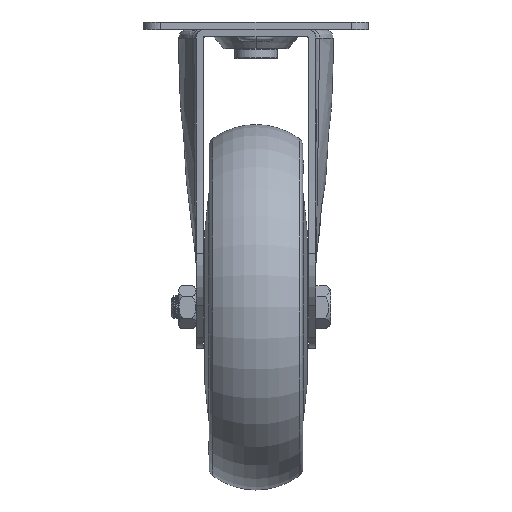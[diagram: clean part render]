
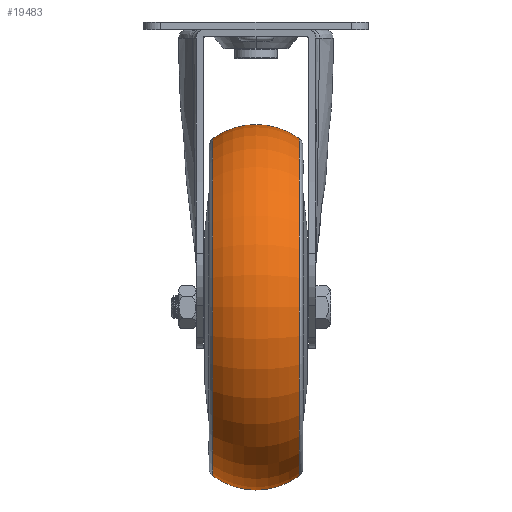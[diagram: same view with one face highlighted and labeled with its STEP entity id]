
A CAD part, top view. The second image highlights one B-rep face of the part: STEP entity #19483.
In plain terms, the highlighted toroidal (fillet/blend) face has major radius 37.5 mm and minor radius 25 mm.
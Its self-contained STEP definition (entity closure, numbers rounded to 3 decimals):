
#19135=CARTESIAN_POINT('',(-14.773,0.,0.));
#19136=DIRECTION('',(1.,0.,0.));
#19137=DIRECTION('',(0.,1.,0.));
#19138=AXIS2_PLACEMENT_3D('',#19135,#19136,#19137);
#19145=CARTESIAN_POINT('',(0.,37.5,0.));
#19146=DIRECTION('',(0.,0.,1.));
#19147=DIRECTION('',(0.591,0.807,0.));
#19148=AXIS2_PLACEMENT_3D('',#19145,#19146,#19147);
#19150=CARTESIAN_POINT('',(14.773,0.,0.));
#19151=DIRECTION('',(1.,0.,0.));
#19152=DIRECTION('',(0.,1.,0.));
#19153=AXIS2_PLACEMENT_3D('',#19150,#19151,#19152);
#19155=CARTESIAN_POINT('',(0.,-37.5,0.));
#19156=DIRECTION('',(0.,0.,-1.));
#19157=DIRECTION('',(0.591,-0.807,0.));
#19158=AXIS2_PLACEMENT_3D('',#19155,#19156,#19157);
#19388=CARTESIAN_POINT('',(14.773,57.668,0.));
#19390=VERTEX_POINT('',#19388);
#19391=CARTESIAN_POINT('',(-14.773,57.668,0.));
#19392=VERTEX_POINT('',#19391);
#19416=CARTESIAN_POINT('',(14.773,-57.668,
0.));
#19418=VERTEX_POINT('',#19416);
#19419=CARTESIAN_POINT('',(-14.773,-57.668,
0.));
#19420=VERTEX_POINT('',#19419);
#19469=CARTESIAN_POINT('',(0.,0.,0.));
#19470=DIRECTION('',(-1.,0.,0.));
#19471=DIRECTION('',(0.,1.,0.));
#19472=AXIS2_PLACEMENT_3D('',#19469,#19470,#19471);
#19473=TOROIDAL_SURFACE('',#19472,37.5,25.);
#19475=ORIENTED_EDGE('',*,*,#19474,.F.);
#19477=ORIENTED_EDGE('',*,*,#19476,.T.);
#19479=ORIENTED_EDGE('',*,*,#19478,.T.);
#19480=ORIENTED_EDGE('',*,*,#19462,.F.);
#19481=EDGE_LOOP('',(#19475,#19477,#19479,#19480));
#19482=FACE_OUTER_BOUND('',#19481,.F.);
#19139=CIRCLE('',#19138,57.668);
#19149=CIRCLE('',#19148,25.);
#19154=CIRCLE('',#19153,57.668);
#19159=CIRCLE('',#19158,25.);
#19462=EDGE_CURVE('',#19392,#19420,#19139,.T.);
#19474=EDGE_CURVE('',#19390,#19392,#19149,.T.);
#19476=EDGE_CURVE('',#19390,#19418,#19154,.T.);
#19478=EDGE_CURVE('',#19418,#19420,#19159,.T.);
#19483=ADVANCED_FACE('',(#19482),#19473,.T.);
